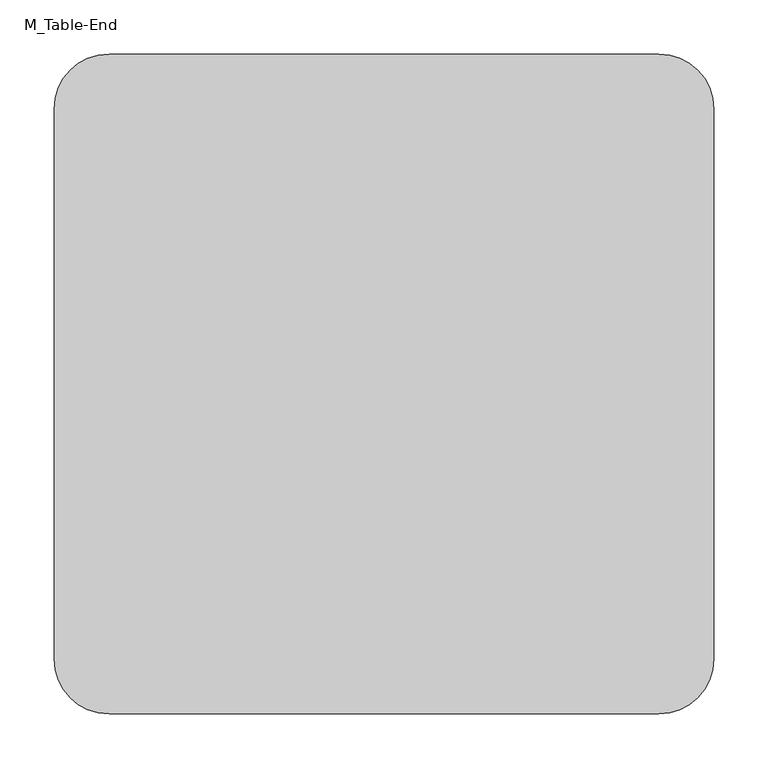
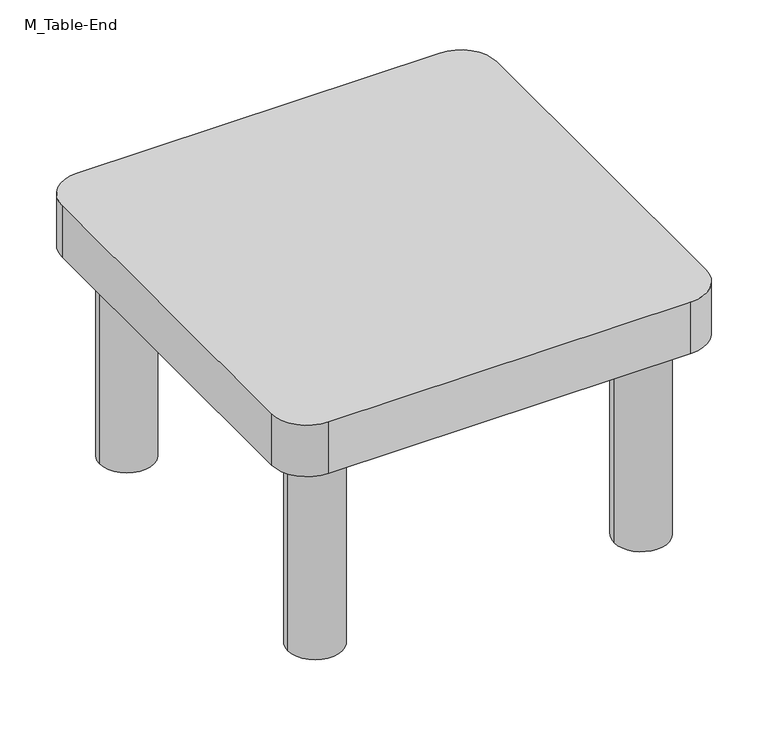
"""IFC4 building model written with IfcOpenShell, lengths in millimetres: furniture geometry, M_Table-End : 0610 x 0160mm altered height."""

from ifc_helpers import new_model, si_unit, point, frame, frame_2d, origin, origin_with_axes, place, context, project, spatial, polyline, circle_curve, trimmed, segment, composite_curve, outline, extrude, source, transform, mapped, element, save


def m_table_end_cb6ea12e(model_context):
    return source(origin(), model_context, "Body", "SweptSolid", [
        extrude(outline(composite_curve([segment(polyline([(562.9336303, -152.6), (54.5336303, -152.6)]), True, "CONTINUOUS"), segment(trimmed(circle_curve(frame_2d((54.5336303, -101.8)), 50.8), [point((54.5336303, -152.6))], [point((3.7336303, -101.8))], False, "CARTESIAN"), True, "CONTINUOUS"), segment(polyline([(3.7336303, -101.8), (3.7336303, 406.6)]), True, "CONTINUOUS"), segment(trimmed(circle_curve(frame_2d((54.5336303, 406.6)), 50.8), [point((3.7336303, 406.6))], [point((54.5336303, 457.4))], False, "CARTESIAN"), True, "CONTINUOUS"), segment(polyline([(54.5336303, 457.4), (562.9336303, 457.4)]), True, "CONTINUOUS"), segment(trimmed(circle_curve(frame_2d((562.9336303, 406.6)), 50.8), [point((562.9336303, 457.4))], [point((613.7336303, 406.6))], False, "CARTESIAN"), True, "CONTINUOUS"), segment(polyline([(613.7336303, 406.6), (613.7336303, -101.8)]), True, "CONTINUOUS"), segment(trimmed(circle_curve(frame_2d((562.9336303, -101.8)), 50.8), [point((613.7336303, -101.8))], [point((562.9336303, -152.6))], False, "CARTESIAN"), True, "CONTINUOUS")], self_intersect=False)), frame((0.0, 0.0, 304.8), z_axis=(0.0, 0.0, 1.0), x_axis=(1.0, 0.0, 0.0)), (0.0, 0.0, 1.0), 76.2),
        extrude(outline(composite_curve([segment(trimmed(circle_curve(frame_2d((79.9336303, 381.2)), 38.1), [point((41.8336303, 381.2))], [point((118.0336303, 381.2))], False, "CARTESIAN"), True, "CONTINUOUS"), segment(trimmed(circle_curve(frame_2d((79.9336303, 381.2)), 38.1), [point((118.0336303, 381.2))], [point((41.8336303, 381.2))], False, "CARTESIAN"), True, "CONTINUOUS")], self_intersect=False)), origin_with_axes(), (0.0, 0.0, 1.0), 304.8),
        extrude(outline(composite_curve([segment(trimmed(circle_curve(frame_2d((79.9336303, -76.4)), 38.1), [point((41.8336303, -76.4))], [point((118.0336303, -76.4))], False, "CARTESIAN"), True, "CONTINUOUS"), segment(trimmed(circle_curve(frame_2d((79.9336303, -76.4)), 38.1), [point((118.0336303, -76.4))], [point((41.8336303, -76.4))], False, "CARTESIAN"), True, "CONTINUOUS")], self_intersect=False)), origin_with_axes(), (0.0, 0.0, 1.0), 304.8),
        extrude(outline(composite_curve([segment(trimmed(circle_curve(frame_2d((537.5336303, -76.4)), 38.1), [point((499.4336303, -76.4))], [point((575.6336303, -76.4))], False, "CARTESIAN"), True, "CONTINUOUS"), segment(trimmed(circle_curve(frame_2d((537.5336303, -76.4)), 38.1), [point((575.6336303, -76.4))], [point((499.4336303, -76.4))], False, "CARTESIAN"), True, "CONTINUOUS")], self_intersect=False)), origin_with_axes(), (0.0, 0.0, 1.0), 304.8),
        extrude(outline(composite_curve([segment(trimmed(circle_curve(frame_2d((537.5336303, 381.2)), 38.1), [point((499.4336303, 381.2))], [point((575.6336303, 381.2))], False, "CARTESIAN"), True, "CONTINUOUS"), segment(trimmed(circle_curve(frame_2d((537.5336303, 381.2)), 38.1), [point((575.6336303, 381.2))], [point((499.4336303, 381.2))], False, "CARTESIAN"), True, "CONTINUOUS")], self_intersect=False)), origin_with_axes(), (0.0, 0.0, 1.0), 304.8),
    ])


if __name__ == "__main__":
    model = new_model("IFC4")
    model_context = context("Model", 3, world=origin())
    ifc_project = project(units=[si_unit("LENGTHUNIT", "METRE", prefix="MILLI")], contexts=[model_context])
    site = spatial("IfcSite", under=ifc_project)
    building = spatial("IfcBuilding", under=site)
    placement = place(None, origin())
    m_table_end_shape = m_table_end_cb6ea12e(model_context)
    element("IfcFurniture", 1, ObjectType="M_Table-End : 0610 x 0160mm altered height", at=placement, inside=building, context=model_context, shape_type="MappedRepresentation", body=[
        mapped(m_table_end_shape, transform((0.0, 0.0, 0.0), x_axis=(1.0, 0.0, 0.0), y_axis=(0.0, 1.0, 0.0), z_axis=(0.0, 0.0, 1.0))),
    ])
    save(model, "model.ifc")
